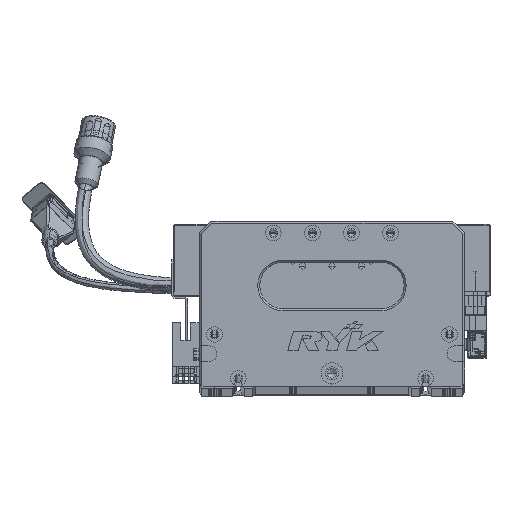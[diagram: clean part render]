
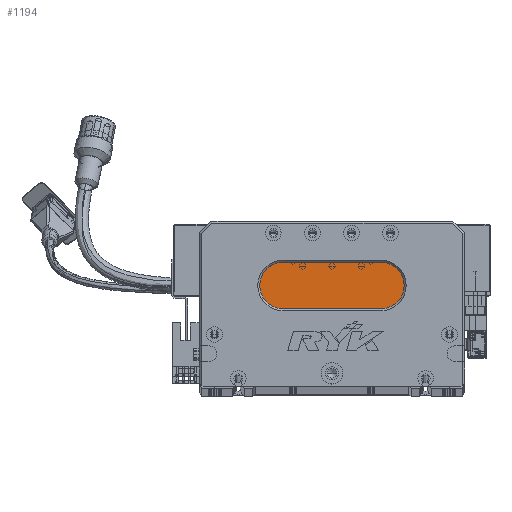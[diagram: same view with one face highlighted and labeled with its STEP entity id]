
A CAD part, top view. The second image highlights one B-rep face of the part: STEP entity #1194.
In plain terms, the highlighted planar face has unit normal (0, 0, 1) as drawn and (0, 0, -1) by its records, which use the part's own axes.
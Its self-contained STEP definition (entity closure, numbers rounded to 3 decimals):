
#1194 = ADVANCED_FACE ( 'NONE', ( #117399 ), #43930, .T. ) ;
#2965 = CARTESIAN_POINT ( 'NONE',  ( 93., 52., 13. ) ) ;
#8412 = ORIENTED_EDGE ( 'NONE', *, *, #109957, .T. ) ;
#9740 = CARTESIAN_POINT ( 'NONE',  ( 43., 64., 13. ) ) ;
#10544 = VERTEX_POINT ( 'NONE', #99802 ) ;
#12045 = DIRECTION ( 'NONE',  ( 1., 0., 0. ) ) ;
#14968 = CARTESIAN_POINT ( 'NONE',  ( 43., 40., 13. ) ) ;
#17931 = LINE ( 'NONE', #41142, #19355 ) ;
#19355 = VECTOR ( 'NONE', #12045, 1000. ) ;
#22808 = LINE ( 'NONE', #31041, #66622 ) ;
#31041 = CARTESIAN_POINT ( 'NONE',  ( 93., 40., 13. ) ) ;
#31136 = VERTEX_POINT ( 'NONE', #9740 ) ;
#31815 = DIRECTION ( 'NONE',  ( -1., 0., 0. ) ) ;
#38346 = EDGE_CURVE ( 'NONE', #31136, #53376, #17931, .T. ) ;
#39481 = ORIENTED_EDGE ( 'NONE', *, *, #60122, .T. ) ;
#41142 = CARTESIAN_POINT ( 'NONE',  ( 93., 64., 13. ) ) ;
#42333 = DIRECTION ( 'NONE',  ( 0., 0., -1. ) ) ;
#43930 = PLANE ( 'NONE',  #113845 ) ;
#53376 = VERTEX_POINT ( 'NONE', #57154 ) ;
#54445 = AXIS2_PLACEMENT_3D ( 'NONE', #71473, #42333, #31815 ) ;
#57154 = CARTESIAN_POINT ( 'NONE',  ( 93., 64., 13. ) ) ;
#58017 = VERTEX_POINT ( 'NONE', #14968 ) ;
#60122 = EDGE_CURVE ( 'NONE', #53376, #91047, #108372, .T. ) ;
#62478 = DIRECTION ( 'NONE',  ( 0., 0., -1. ) ) ;
#66622 = VECTOR ( 'NONE', #80380, 1000. ) ;
#69117 = EDGE_CURVE ( 'NONE', #91047, #58017, #22808, .T. ) ;
#69316 = CIRCLE ( 'NONE', #54445, 12. ) ;
#70100 = DIRECTION ( 'NONE',  ( -1., 0., 0. ) ) ;
#71473 = CARTESIAN_POINT ( 'NONE',  ( 43., 52., 13. ) ) ;
#71597 = ORIENTED_EDGE ( 'NONE', *, *, #77314, .T. ) ;
#75466 = CARTESIAN_POINT ( 'NONE',  ( 93., 40., 13. ) ) ;
#77314 = EDGE_CURVE ( 'NONE', #58017, #10544, #77705, .T. ) ;
#77664 = AXIS2_PLACEMENT_3D ( 'NONE', #92354, #112221, #113467 ) ;
#77705 = CIRCLE ( 'NONE', #77664, 12. ) ;
#80380 = DIRECTION ( 'NONE',  ( -1., 0., 0. ) ) ;
#86271 = ORIENTED_EDGE ( 'NONE', *, *, #38346, .T. ) ;
#91047 = VERTEX_POINT ( 'NONE', #75466 ) ;
#92354 = CARTESIAN_POINT ( 'NONE',  ( 43., 52., 13. ) ) ;
#92502 = CARTESIAN_POINT ( 'NONE',  ( 93., 52., 13. ) ) ;
#96399 = EDGE_LOOP ( 'NONE', ( #39481, #115905, #71597, #8412, #86271 ) ) ;
#99802 = CARTESIAN_POINT ( 'NONE',  ( 31., 52., 13. ) ) ;
#102221 = DIRECTION ( 'NONE',  ( -1., 0., 0. ) ) ;
#108372 = CIRCLE ( 'NONE', #118179, 12. ) ;
#109957 = EDGE_CURVE ( 'NONE', #10544, #31136, #69316, .T. ) ;
#112221 = DIRECTION ( 'NONE',  ( 0., 0., -1. ) ) ;
#113467 = DIRECTION ( 'NONE',  ( -1., 0., 0. ) ) ;
#113845 = AXIS2_PLACEMENT_3D ( 'NONE', #92502, #62478, #102221 ) ;
#115905 = ORIENTED_EDGE ( 'NONE', *, *, #69117, .T. ) ;
#117399 = FACE_OUTER_BOUND ( 'NONE', #96399, .T. ) ;
#118179 = AXIS2_PLACEMENT_3D ( 'NONE', #2965, #118777, #70100 ) ;
#118777 = DIRECTION ( 'NONE',  ( 0., 0., -1. ) ) ;
